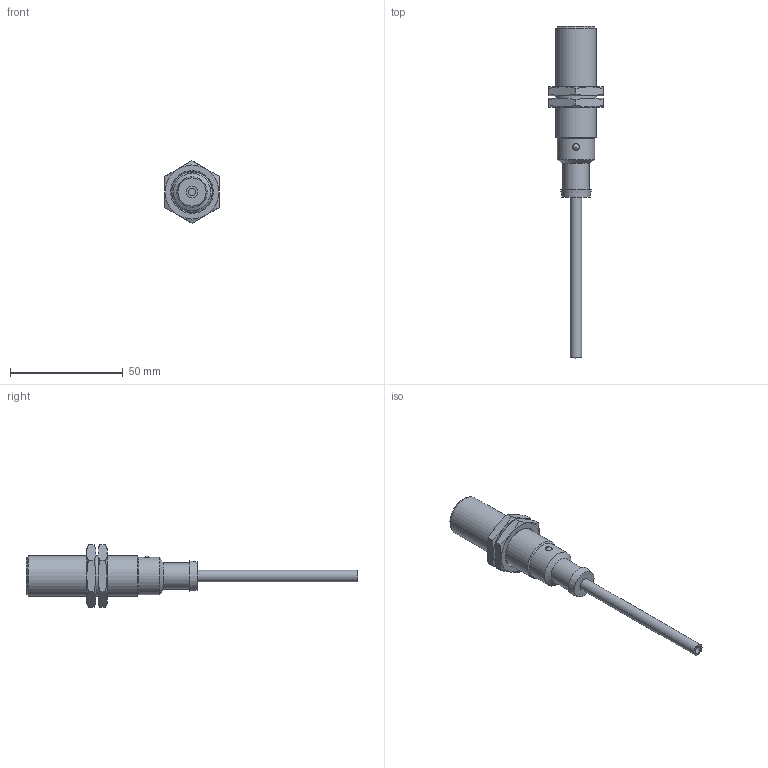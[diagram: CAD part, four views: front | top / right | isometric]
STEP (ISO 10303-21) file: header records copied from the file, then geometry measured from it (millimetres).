
FILE_DESCRIPTION((''),'2;1');
FILE_NAME('C:\TurckZip\Bi-M18T-ANX-50.stp','2007-01-30T09:41:36',('IKOROL'),(''),'Autodesk Inventor 11','Autodesk Inventor 11','');
FILE_SCHEMA(('AUTOMOTIVE_DESIGN { 1 0 10303 214 1 1 1 1 }'));
Length unit declared in the file: millimetre
Products named in the file (1): Part5
Bounding box: 24 x 147.5 x 27.71 mm (x, y, z)
Volume: 19399.9 mm3; surface area: 7645.7 mm2
Topology: 1 solids, 1 shells, 66 faces, 138 edges, 83 vertices
Faces by surface type: cone 32, plane 23, cylinder 10, bspline 1
Full cylindrical faces by diameter (mm): 2.776 x1, 3 x1, 3.42 x1, 5.2 x1, 11.6 x1, 16.6 x2, 18 x3
Entity records: 1643 total; most frequent: CARTESIAN_POINT 449, DIRECTION 244, ORIENTED_EDGE 224, AXIS2_PLACEMENT_3D 116, EDGE_CURVE 112, EDGE_LOOP 94, VERTEX_POINT 76, FACE_OUTER_BOUND 66
